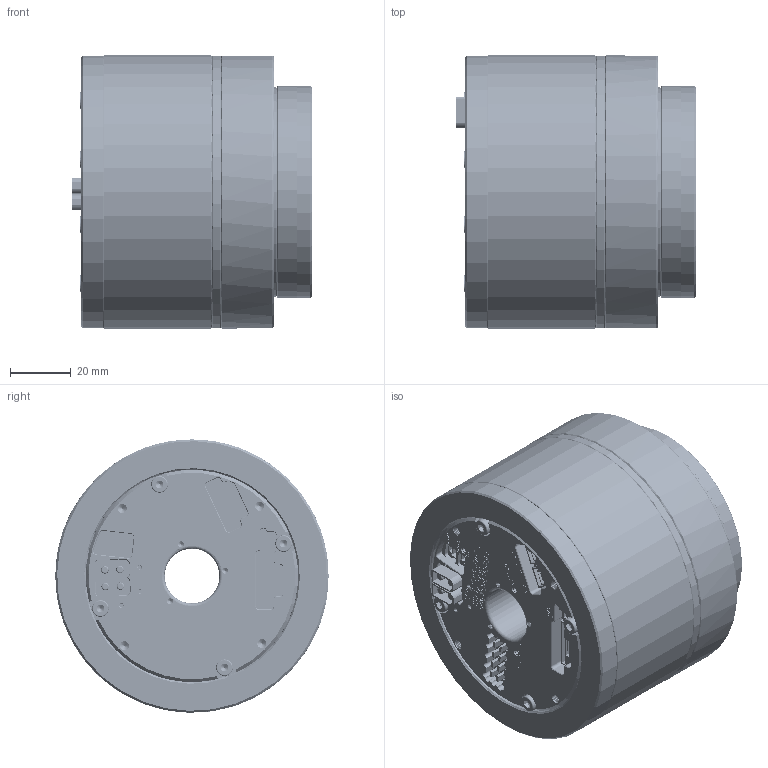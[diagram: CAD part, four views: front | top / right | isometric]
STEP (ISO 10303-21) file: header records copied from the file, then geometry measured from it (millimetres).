
FILE_DESCRIPTION (( 'STEP AP203' ), '1' );
FILE_NAME ('eRob90H｡ﾁ｡ﾁI-XX-18EX_V6_MC2E.DX.XX.STEP', '2024-12-12T12:20:35', ( 'Windows User' ), ( 'P R C' ), 'SwSTEP 2.0', 'SolidWorks 2021', '' );
FILE_SCHEMA (( 'CONFIG_CONTROL_DESIGN' ));
Length unit declared in the file: millimetre
Products named in the file (1): eRob90H××I-XX-18EX_V6_MC2E.DX.XX
Bounding box: 79 x 90 x 90 mm (x, y, z)
Volume: 424935.2 mm3; surface area: 52177.3 mm2
Topology: 1 solids, 1 shells, 3761 faces, 9871 edges, 6424 vertices
Faces by surface type: plane 2590, bspline 499, cylinder 479, cone 159, torus 34
Full cylindrical faces by diameter (mm): 1.5 x5, 1.6 x3, 2.1 x5, 2.5 x44, 3.4 x16, 3.5 x20, 4.5 x24, 5 x24, 5.5 x4, 18 x1, 69 x1, 69.6 x1, 70 x2, 78 x1, 89.8 x1, 90 x3
Entity records: 188408 total; most frequent: CARTESIAN_POINT 101085, ORIENTED_EDGE 18766, DIRECTION 15926, EDGE_CURVE 9383, VECTOR 6950, LINE 6950, VERTEX_POINT 6243, AXIS2_PLACEMENT_3D 4488
